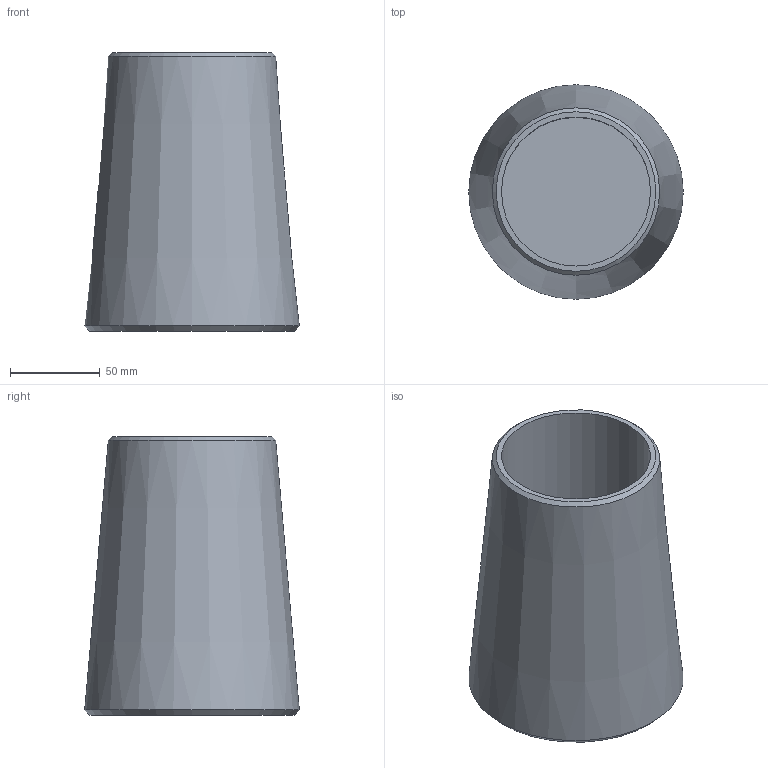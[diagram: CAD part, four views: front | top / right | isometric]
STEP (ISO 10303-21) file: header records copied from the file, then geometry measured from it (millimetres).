
FILE_DESCRIPTION(/* description */ (''),/* implementation_level */ '2;1');
FILE_NAME(/* name */ 'C:\Vault_WS\Designs\SB\01-PX\Verzinkt\ZSS\520 - Kontermutter\520-080-KMU.stp',/* time_stamp */ '2020-06-18T12:37:05+02:00',/* author */ ('schwarz'),/* organization */ (''),/* preprocessor_version */ 'ST-DEVELOPER v16.1',/* originating_system */ 'Autodesk Inventor 2016',/* authorisation */ '');
FILE_SCHEMA (('AUTOMOTIVE_DESIGN { 1 0 10303 214 3 1 1 }'));
Length unit declared in the file: millimetre
Products named in the file (1): Kontermutter 520 080 Kunde
Bounding box: 119.48 x 119.48 x 155 mm (x, y, z)
Volume: 762202.8 mm3; surface area: 99043 mm2
Topology: 1 solids, 1 shells, 7 faces, 10 edges, 6 vertices
Faces by surface type: cone 3, plane 3, cylinder 1
Full cylindrical faces by diameter (mm): 83 x1
Entity records: 158 total; most frequent: DIRECTION 28, CARTESIAN_POINT 20, AXIS2_PLACEMENT_3D 14, EDGE_LOOP 12, ORIENTED_EDGE 12, FACE_OUTER_BOUND 7, ADVANCED_FACE 7, CIRCLE 6
